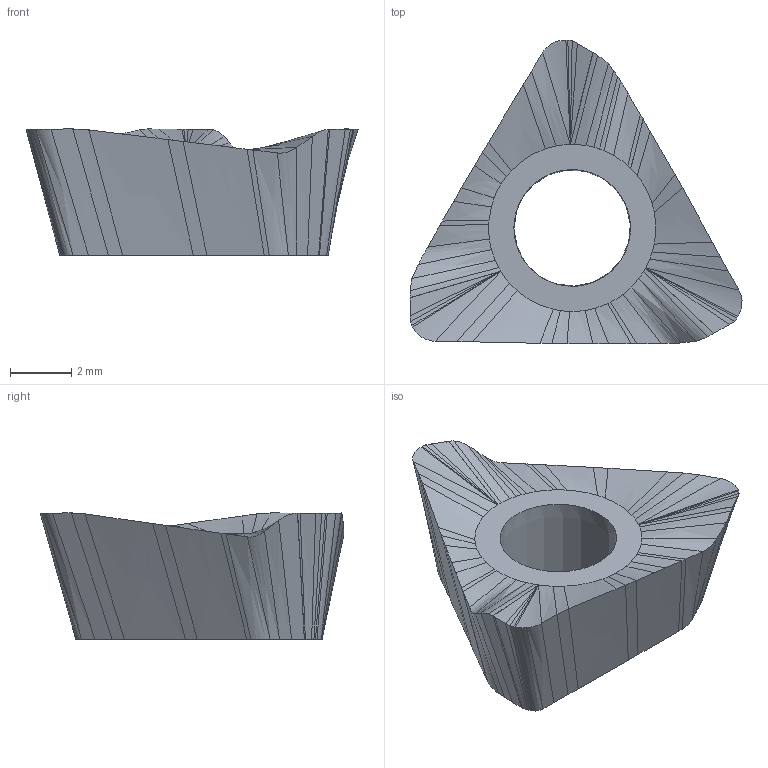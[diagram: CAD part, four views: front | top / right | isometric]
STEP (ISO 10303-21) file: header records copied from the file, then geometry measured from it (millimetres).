
FILE_DESCRIPTION(('CATIA V5 STEP','CAx-IF Rec.Pracs.--- Model Styling and Organization---1.2---2011-12-15'),'2;1');
FILE_NAME('N:\data\isr\design\special1\users\NATALY_B\Tal\NPA\3320756\HM390 TPKT 1003PDR-MP.stp','2018-03-13T06:19:55+00:00',('none'),('none'),'CATIA Version 5 Release 21 SP 5 (IN-10)','CATIA V5 STEP AP214','none');
FILE_SCHEMA(('AUTOMOTIVE_DESIGN { 1 0 10303 214 1 1 1 1 }'));
Length unit declared in the file: millimetre
Products named in the file (1): HM390 TPKT 1003PDR-MP
Bounding box: 10.8 x 9.88 x 4.1 mm (x, y, z)
Volume: 158.5 mm3; surface area: 248.5 mm2
Topology: 1 solids, 1 shells, 125 faces, 357 edges, 232 vertices
Faces by surface type: bspline 98, plane 25, extrusion 2
Entity records: 9898 total; most frequent: CARTESIAN_POINT 7609, ORIENTED_EDGE 606, EDGE_CURVE 303, B_SPLINE_CURVE_WITH_KNOTS 300, VERTEX_POINT 180, EDGE_LOOP 127, ADVANCED_FACE 125, FACE_OUTER_BOUND 125
